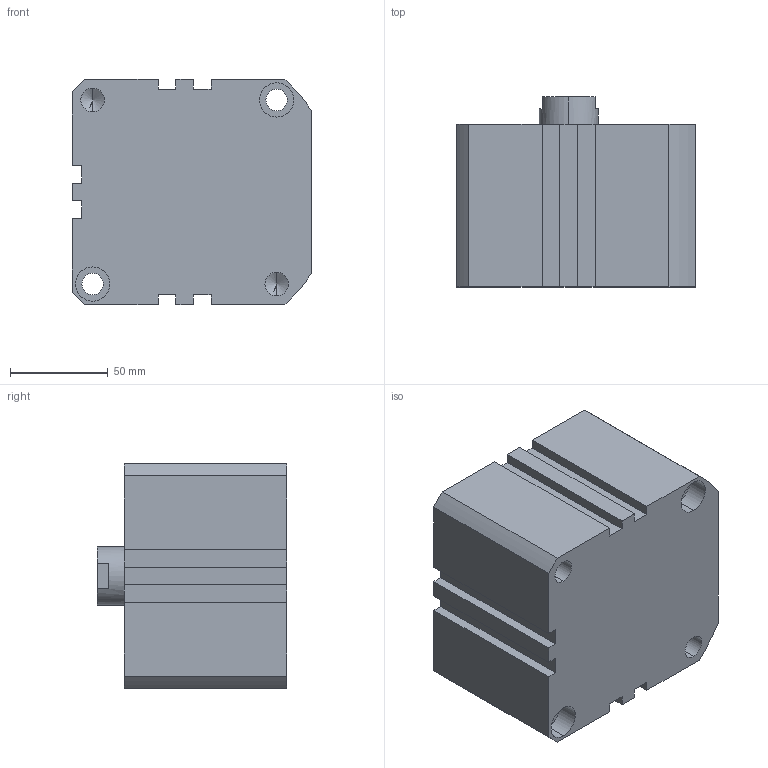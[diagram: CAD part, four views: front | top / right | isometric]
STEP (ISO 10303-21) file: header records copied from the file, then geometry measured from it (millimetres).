
FILE_DESCRIPTION (( 'STEP AP203' ), '1' );
FILE_NAME ('XG#2-100D-10.STEP', '2016-05-24T01:54:41', ( '' ), ( '' ), 'SwSTEP 2.0', 'SolidWorks 2014', '' );
FILE_SCHEMA (( 'CONFIG_CONTROL_DESIGN' ));
Length unit declared in the file: millimetre
Products named in the file (1): XG#2-100D-10
Bounding box: 122.5 x 97 x 115 mm (x, y, z)
Volume: 1079155 mm3; surface area: 86283 mm2
Topology: 1 solids, 1 shells, 111 faces, 279 edges, 174 vertices
Faces by surface type: cylinder 47, plane 46, cone 18
Entity records: 3327 total; most frequent: DIRECTION 596, CARTESIAN_POINT 551, ORIENTED_EDGE 530, EDGE_CURVE 265, AXIS2_PLACEMENT_3D 219, VERTEX_POINT 174, LINE 158, VECTOR 158
